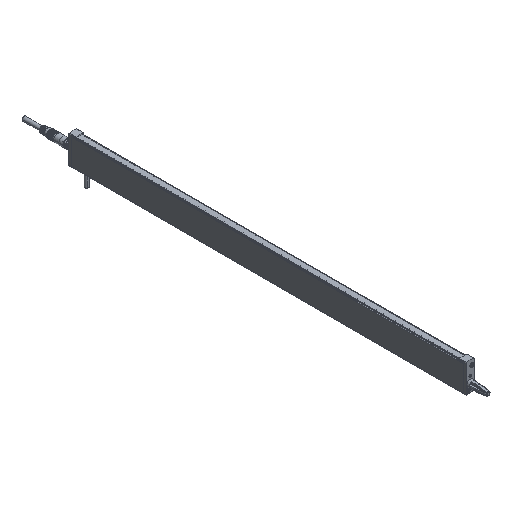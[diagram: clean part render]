
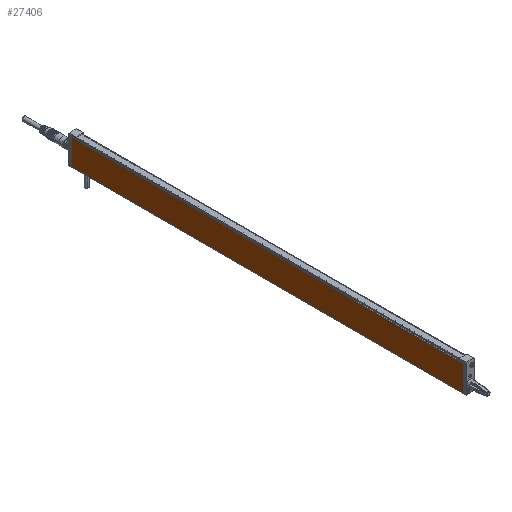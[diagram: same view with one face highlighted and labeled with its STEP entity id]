
A CAD part, isometric view. The second image highlights one B-rep face of the part: STEP entity #27406.
In plain terms, the highlighted planar face has unit normal (-1, 0, 0).
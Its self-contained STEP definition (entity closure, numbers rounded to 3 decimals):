
#4240 = CARTESIAN_POINT ( 'NONE',  ( -9., 430., 28.5 ) ) ;
#4817 = AXIS2_PLACEMENT_3D ( 'NONE', #22543, #25222, #19844 ) ;
#6565 = VECTOR ( 'NONE', #33470, 1000. ) ;
#7653 = CARTESIAN_POINT ( 'NONE',  ( -9., 430., 0.5 ) ) ;
#9659 = LINE ( 'NONE', #28091, #12929 ) ;
#9942 = VECTOR ( 'NONE', #19259, 1000. ) ;
#10512 = CARTESIAN_POINT ( 'NONE',  ( -9., 430., 0.5 ) ) ;
#10543 = CARTESIAN_POINT ( 'NONE',  ( -9., 0., 28.5 ) ) ;
#10781 = LINE ( 'NONE', #4240, #31188 ) ;
#11838 = DIRECTION ( 'NONE',  ( 0., 0., -1. ) ) ;
#11929 = CARTESIAN_POINT ( 'NONE',  ( -9., 0., 0.5 ) ) ;
#12929 = VECTOR ( 'NONE', #17376, 1000. ) ;
#13042 = VERTEX_POINT ( 'NONE', #31165 ) ;
#16339 = EDGE_CURVE ( 'NONE', #13042, #16983, #10781, .T. ) ;
#16983 = VERTEX_POINT ( 'NONE', #10512 ) ;
#17376 = DIRECTION ( 'NONE',  ( 0., 0., -1. ) ) ;
#17484 = VERTEX_POINT ( 'NONE', #10543 ) ;
#18764 = ORIENTED_EDGE ( 'NONE', *, *, #16339, .T. ) ;
#19024 = ORIENTED_EDGE ( 'NONE', *, *, #29821, .F. ) ;
#19259 = DIRECTION ( 'NONE',  ( 0., -1., 0. ) ) ;
#19844 = DIRECTION ( 'NONE',  ( 0., -1., 0. ) ) ;
#20328 = EDGE_CURVE ( 'NONE', #17484, #31782, #9659, .T. ) ;
#22073 = CARTESIAN_POINT ( 'NONE',  ( -9., 430., 28.5 ) ) ;
#22543 = CARTESIAN_POINT ( 'NONE',  ( -9., 430., 28.5 ) ) ;
#23783 = LINE ( 'NONE', #22073, #9942 ) ;
#25222 = DIRECTION ( 'NONE',  ( -1., 0., 0. ) ) ;
#27406 = ADVANCED_FACE ( 'NONE', ( #33525 ), #29878, .T. ) ;
#28091 = CARTESIAN_POINT ( 'NONE',  ( -9., 0., 28.5 ) ) ;
#28485 = EDGE_CURVE ( 'NONE', #16983, #31782, #29862, .T. ) ;
#29821 = EDGE_CURVE ( 'NONE', #13042, #17484, #23783, .T. ) ;
#29862 = LINE ( 'NONE', #7653, #6565 ) ;
#29878 = PLANE ( 'NONE',  #4817 ) ;
#31165 = CARTESIAN_POINT ( 'NONE',  ( -9., 430., 28.5 ) ) ;
#31188 = VECTOR ( 'NONE', #11838, 1000. ) ;
#31385 = ORIENTED_EDGE ( 'NONE', *, *, #20328, .F. ) ;
#31420 = ORIENTED_EDGE ( 'NONE', *, *, #28485, .T. ) ;
#31782 = VERTEX_POINT ( 'NONE', #11929 ) ;
#32551 = EDGE_LOOP ( 'NONE', ( #31385, #19024, #18764, #31420 ) ) ;
#33470 = DIRECTION ( 'NONE',  ( 0., -1., 0. ) ) ;
#33525 = FACE_OUTER_BOUND ( 'NONE', #32551, .T. ) ;
